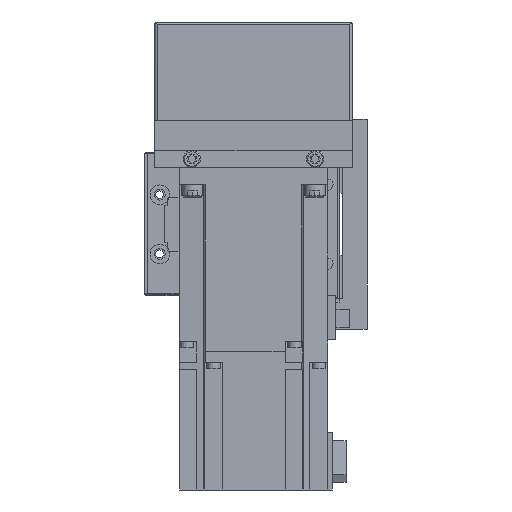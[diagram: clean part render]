
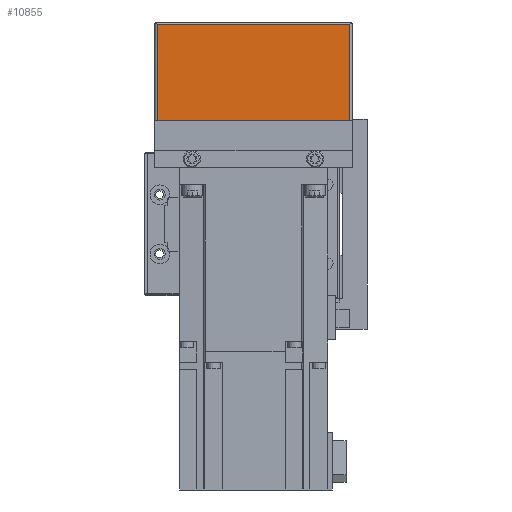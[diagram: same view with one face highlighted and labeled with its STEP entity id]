
A CAD part, left-side view. The second image highlights one B-rep face of the part: STEP entity #10855.
In plain terms, the highlighted planar face has unit normal (-1, 0, 0) as drawn and (0, 1, 0) by its records, which use the part's own axes.
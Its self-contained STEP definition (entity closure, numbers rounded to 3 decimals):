
#2534=ORIENTED_EDGE('',*,*,#4603,.T.);
#2535=ORIENTED_EDGE('',*,*,#4604,.T.);
#2536=ORIENTED_EDGE('',*,*,#4605,.F.);
#2537=ORIENTED_EDGE('',*,*,#4606,.T.);
#4603=EDGE_CURVE('',#5826,#5827,#6866,.T.);
#4604=EDGE_CURVE('',#5827,#5828,#6867,.T.);
#4605=EDGE_CURVE('',#5829,#5828,#6868,.T.);
#4606=EDGE_CURVE('',#5829,#5826,#6869,.T.);
#5826=VERTEX_POINT('',#17433);
#5827=VERTEX_POINT('',#17434);
#5828=VERTEX_POINT('',#17436);
#5829=VERTEX_POINT('',#17438);
#6866=LINE('',#17432,#7914);
#6867=LINE('',#17435,#7915);
#6868=LINE('',#17437,#7916);
#6869=LINE('',#17439,#7917);
#7914=VECTOR('',#14242,1000.);
#7915=VECTOR('',#14243,1000.);
#7916=VECTOR('',#14244,1000.);
#7917=VECTOR('',#14245,1000.);
#8903=EDGE_LOOP('',(#2534,#2535,#2536,#2537));
#9777=FACE_BOUND('',#8903,.T.);
#10325=PLANE('',#11842);
#10855=ADVANCED_FACE('',(#9777),#10325,.T.);
#11842=AXIS2_PLACEMENT_3D('',#17431,#14240,#14241);
#14240=DIRECTION('',(0.,1.,0.));
#14241=DIRECTION('',(0.,0.,1.));
#14242=DIRECTION('',(0.,0.,1.));
#14243=DIRECTION('',(1.,0.,0.));
#14244=DIRECTION('',(0.,0.,1.));
#14245=DIRECTION('',(-1.,0.,0.));
#17431=CARTESIAN_POINT('',(40.,151.,-52.));
#17432=CARTESIAN_POINT('',(-39.,151.,-64.));
#17433=CARTESIAN_POINT('',(-39.,151.,-51.));
#17434=CARTESIAN_POINT('',(-39.,151.,-12.01));
#17435=CARTESIAN_POINT('',(40.,151.,-12.01));
#17436=CARTESIAN_POINT('',(39.,151.,-12.01));
#17437=CARTESIAN_POINT('',(39.,151.,-64.));
#17438=CARTESIAN_POINT('',(39.,151.,-51.));
#17439=CARTESIAN_POINT('',(52.,151.,-51.));
